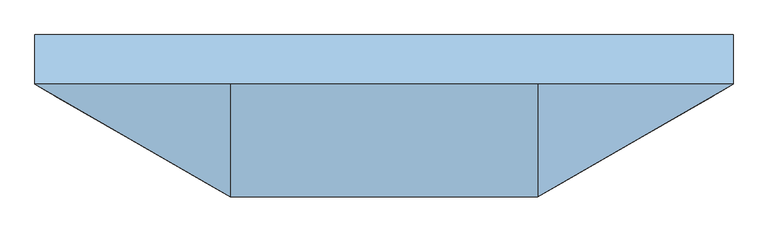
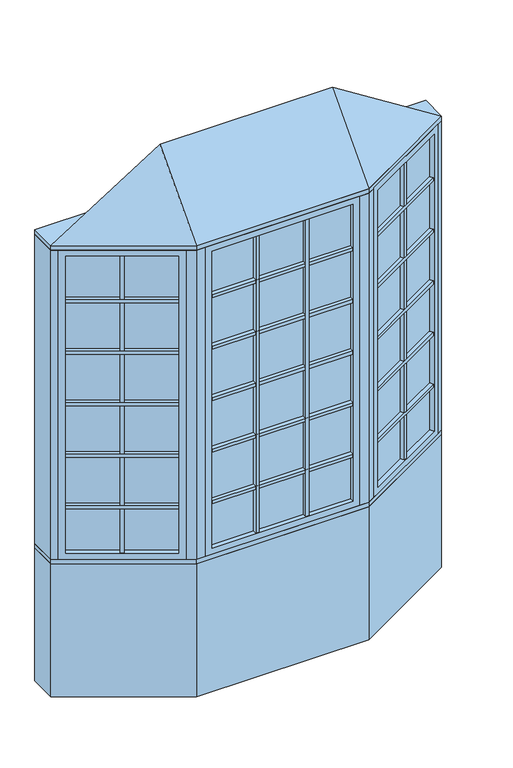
"""IFC4 building model written with IfcOpenShell, lengths in millimetres: window geometry, Pollard_Windows_Tudor Casement Bows and Bays : AML-BAY 30 AFR0618-10-600_GC."""

from ifc_helpers import new_model, si_unit, frame, origin, origin_with_axes, place, context, project, spatial, polyline, outline, extrude, faceted_brep, source, transform, mapped, element, save


def window_91017d7e(model_context):
    return source(origin(), model_context, "Body", "SolidModel", [
        extrude(outline(polyline([(546.881999, -376.6297343), (535.881999, -357.5771754), (1002.1135794, -88.3982469), (1013.1135794, -107.4508058), (546.881999, -376.6297343)])), frame((0.0, 0.0, 1690.998), z_axis=(0.0, 0.0, 1.0), x_axis=(1.0, 0.0, 0.0)), (0.0, 0.0, 1.0), 18.0),
        extrude(outline(polyline([(533.341999, -353.1777664), (522.341999, -334.1252075), (988.5735794, -64.946279), (999.5735794, -83.9988379), (533.341999, -353.1777664)])), frame((0.0, 0.0, 1690.998), z_axis=(0.0, 0.0, 1.0), x_axis=(1.0, 0.0, 0.0)), (0.0, 0.0, 1.0), 18.0),
        extrude(outline(polyline([(546.881999, -376.6297343), (535.881999, -357.5771754), (1002.1135794, -88.3982469), (1013.1135794, -107.4508058), (546.881999, -376.6297343)])), frame((0.0, 0.0, 1090.998), z_axis=(0.0, 0.0, 1.0), x_axis=(1.0, 0.0, 0.0)), (0.0, 0.0, 1.0), 18.0),
        extrude(outline(polyline([(533.341999, -353.1777664), (522.341999, -334.1252075), (988.5735794, -64.946279), (999.5735794, -83.9988379), (533.341999, -353.1777664)])), frame((0.0, 0.0, 1090.998), z_axis=(0.0, 0.0, 1.0), x_axis=(1.0, 0.0, 0.0)), (0.0, 0.0, 1.0), 18.0),
        extrude(outline(polyline([(546.881999, -376.6297343), (535.881999, -357.5771754), (1002.1135794, -88.3982469), (1013.1135794, -107.4508058), (546.881999, -376.6297343)])), frame((0.0, 0.0, 1390.998), z_axis=(0.0, 0.0, 1.0), x_axis=(1.0, 0.0, 0.0)), (0.0, 0.0, 1.0), 18.0),
        extrude(outline(polyline([(533.341999, -353.1777664), (522.341999, -334.1252075), (988.5735794, -64.946279), (999.5735794, -83.9988379), (533.341999, -353.1777664)])), frame((0.0, 0.0, 1390.998), z_axis=(0.0, 0.0, 1.0), x_axis=(1.0, 0.0, 0.0)), (0.0, 0.0, 1.0), 18.0),
        extrude(outline(polyline([(546.881999, -376.6297343), (535.881999, -357.5771754), (1002.1135794, -88.3982469), (1013.1135794, -107.4508058), (546.881999, -376.6297343)])), frame((0.0, 0.0, 1990.998), z_axis=(0.0, 0.0, 1.0), x_axis=(1.0, 0.0, 0.0)), (0.0, 0.0, 1.0), 18.0),
        extrude(outline(polyline([(533.341999, -353.1777664), (522.341999, -334.1252075), (988.5735794, -64.946279), (999.5735794, -83.9988379), (533.341999, -353.1777664)])), frame((0.0, 0.0, 1990.998), z_axis=(0.0, 0.0, 1.0), x_axis=(1.0, 0.0, 0.0)), (0.0, 0.0, 1.0), 18.0),
        extrude(outline(polyline([(546.881999, -376.6297343), (535.881999, -357.5771754), (1002.1135794, -88.3982469), (1013.1135794, -107.4508058), (546.881999, -376.6297343)])), frame((0.0, 0.0, 2290.998), z_axis=(0.0, 0.0, 1.0), x_axis=(1.0, 0.0, 0.0)), (0.0, 0.0, 1.0), 18.0),
        extrude(outline(polyline([(533.341999, -353.1777664), (522.341999, -334.1252075), (988.5735794, -64.946279), (999.5735794, -83.9988379), (533.341999, -353.1777664)])), frame((0.0, 0.0, 2290.998), z_axis=(0.0, 0.0, 1.0), x_axis=(1.0, 0.0, 0.0)), (0.0, 0.0, 1.0), 18.0),
        extrude(outline(polyline([(776.7920178, -218.4877112), (787.7920178, -237.5402701), (772.2035606, -246.5402701), (761.2035606, -227.4877112), (776.7920178, -218.4877112)])), frame((0.0, 0.0, 835.8628), z_axis=(0.0, 0.0, 1.0), x_axis=(1.0, 0.0, 0.0)), (0.0, 0.0, 1.0), 1728.2704),
        extrude(outline(polyline([(774.2520178, -214.0883021), (758.6635606, -223.0883021), (747.6635606, -204.0357432), (763.2520178, -195.0357432), (774.2520178, -214.0883021)])), frame((0.0, 0.0, 835.8628), z_axis=(0.0, 0.0, 1.0), x_axis=(1.0, 0.0, 0.0)), (0.0, 0.0, 1.0), 1728.2704),
        extrude(outline(polyline([(1013.112102, -82.0482469), (524.8834764, -363.9271754), (522.3434764, -359.5277664), (1010.572102, -77.6488379), (1013.112102, -82.0482469)])), frame((0.0, 0.0, 823.1628), z_axis=(0.0, 0.0, 1.0), x_axis=(1.0, 0.0, 0.0)), (0.0, 0.0, 1.0), 1753.6704),
        faceted_brep([(1002.1135794, -88.3982469, 835.8628), (1014.8135794, -110.3952922, 835.8628), (1014.8135794, -110.3952922, 2564.1332), (1002.1135794, -88.3982469, 2564.1332), (1010.572102, -77.6488379, 823.1628), (1013.112102, -82.0482469, 823.1628), (1013.112102, -82.0482469, 2576.8332), (1010.572102, -77.6488379, 2576.8332), (986.8735794, -62.0017926, 835.8628), (999.5735794, -83.9988379, 835.8628), (999.5735794, -83.9988379, 2564.1332), (986.8735794, -62.0017926, 2564.1332), (1045.8734073, -92.4628922, 799.998), (1017.9334073, -44.0693926, 799.998), (1017.9334073, -44.0693926, 2599.998), (1045.8734073, -92.4628922, 2599.998), (548.581999, -379.5742207, 2564.1332), (535.881999, -357.5771754, 2564.1332), (524.8834764, -363.9271754, 2576.8332), (522.3434764, -359.5277664, 2576.8332), (533.341999, -353.1777664, 2564.1332), (520.641999, -331.1807211, 2564.1332), (489.5821711, -349.1131211, 2599.998), (517.5221711, -397.5066207, 2599.998), (548.581999, -379.5742207, 835.8628), (535.881999, -357.5771754, 835.8628), (524.8834764, -363.9271754, 823.1628), (522.3434764, -359.5277664, 823.1628), (533.341999, -353.1777664, 835.8628), (520.641999, -331.1807211, 835.8628), (489.5821711, -349.1131211, 799.998), (517.5221711, -397.5066207, 799.998)], [[[0, 1, 2, 3]], [[4, 5, 6, 7]], [[8, 9, 10, 11]], [[12, 13, 14, 15]], [[3, 2, 16, 17]], [[7, 6, 18, 19]], [[11, 10, 20, 21]], [[15, 14, 22, 23]], [[17, 16, 24, 25]], [[19, 18, 26, 27]], [[21, 20, 28, 29]], [[23, 22, 30, 31]], [[25, 24, 1, 0]], [[5, 26, 18, 6], [3, 17, 25, 0]], [[27, 26, 5, 4]], [[7, 19, 27, 4], [9, 28, 20, 10]], [[29, 28, 9, 8]], [[13, 30, 22, 14], [11, 21, 29, 8]], [[31, 30, 13, 12]], [[15, 23, 31, 12], [1, 24, 16, 2]]]),
        extrude(outline(polyline([(145.6855003, -397.1066207), (145.6855003, -419.1066207), (127.6855003, -419.1066207), (127.6855003, -397.1066207), (145.6855003, -397.1066207)])), frame((0.0, 0.0, 835.8628), z_axis=(0.0, 0.0, 1.0), x_axis=(1.0, 0.0, 0.0)), (0.0, 0.0, 1.0), 1728.2704),
        extrude(outline(polyline([(145.6855003, -392.0266207), (127.6855003, -392.0266207), (127.6855003, -370.0266207), (145.6855003, -370.0266207), (145.6855003, -392.0266207)])), frame((0.0, 0.0, 835.8628), z_axis=(0.0, 0.0, 1.0), x_axis=(1.0, 0.0, 0.0)), (0.0, 0.0, 1.0), 1728.2704),
        extrude(outline(polyline([(-127.6855003, -397.1066207), (-127.6855003, -419.1066207), (-145.6855003, -419.1066207), (-145.6855003, -397.1066207), (-127.6855003, -397.1066207)])), frame((0.0, 0.0, 835.8628), z_axis=(0.0, 0.0, 1.0), x_axis=(1.0, 0.0, 0.0)), (0.0, 0.0, 1.0), 1728.2704),
        extrude(outline(polyline([(-127.6855003, -392.0266207), (-145.6855003, -392.0266207), (-145.6855003, -370.0266207), (-127.6855003, -370.0266207), (-127.6855003, -392.0266207)])), frame((0.0, 0.0, 835.8628), z_axis=(0.0, 0.0, 1.0), x_axis=(1.0, 0.0, 0.0)), (0.0, 0.0, 1.0), 1728.2704),
        extrude(outline(polyline([(-388.3561009, -419.1066207), (-388.3561009, -397.1066207), (388.3561009, -397.1066207), (388.3561009, -419.1066207), (-388.3561009, -419.1066207)])), frame((0.0, 0.0, 1090.998), z_axis=(0.0, 0.0, 1.0), x_axis=(1.0, 0.0, 0.0)), (0.0, 0.0, 1.0), 18.0),
        extrude(outline(polyline([(-388.3561009, -392.0266207), (-388.3561009, -370.0266207), (388.3561009, -370.0266207), (388.3561009, -392.0266207), (-388.3561009, -392.0266207)])), frame((0.0, 0.0, 1090.998), z_axis=(0.0, 0.0, 1.0), x_axis=(1.0, 0.0, 0.0)), (0.0, 0.0, 1.0), 18.0),
        extrude(outline(polyline([(-388.3561009, -419.1066207), (-388.3561009, -397.1066207), (388.3561009, -397.1066207), (388.3561009, -419.1066207), (-388.3561009, -419.1066207)])), frame((0.0, 0.0, 1390.998), z_axis=(0.0, 0.0, 1.0), x_axis=(1.0, 0.0, 0.0)), (0.0, 0.0, 1.0), 18.0),
        extrude(outline(polyline([(-388.3561009, -392.0266207), (-388.3561009, -370.0266207), (388.3561009, -370.0266207), (388.3561009, -392.0266207), (-388.3561009, -392.0266207)])), frame((0.0, 0.0, 1390.998), z_axis=(0.0, 0.0, 1.0), x_axis=(1.0, 0.0, 0.0)), (0.0, 0.0, 1.0), 18.0),
        extrude(outline(polyline([(-388.3561009, -419.1066207), (-388.3561009, -397.1066207), (388.3561009, -397.1066207), (388.3561009, -419.1066207), (-388.3561009, -419.1066207)])), frame((0.0, 0.0, 1690.998), z_axis=(0.0, 0.0, 1.0), x_axis=(1.0, 0.0, 0.0)), (0.0, 0.0, 1.0), 18.0),
        extrude(outline(polyline([(-388.3561009, -392.0266207), (-388.3561009, -370.0266207), (388.3561009, -370.0266207), (388.3561009, -392.0266207), (-388.3561009, -392.0266207)])), frame((0.0, 0.0, 1690.998), z_axis=(0.0, 0.0, 1.0), x_axis=(1.0, 0.0, 0.0)), (0.0, 0.0, 1.0), 18.0),
        extrude(outline(polyline([(-388.3561009, -419.1066207), (-388.3561009, -397.1066207), (388.3561009, -397.1066207), (388.3561009, -419.1066207), (-388.3561009, -419.1066207)])), frame((0.0, 0.0, 1990.998), z_axis=(0.0, 0.0, 1.0), x_axis=(1.0, 0.0, 0.0)), (0.0, 0.0, 1.0), 18.0),
        extrude(outline(polyline([(-388.3561009, -392.0266207), (-388.3561009, -370.0266207), (388.3561009, -370.0266207), (388.3561009, -392.0266207), (-388.3561009, -392.0266207)])), frame((0.0, 0.0, 1990.998), z_axis=(0.0, 0.0, 1.0), x_axis=(1.0, 0.0, 0.0)), (0.0, 0.0, 1.0), 18.0),
        extrude(outline(polyline([(-1013.1135794, -107.4508058), (-1002.1135794, -88.3982469), (-535.881999, -357.5771754), (-546.881999, -376.6297343), (-1013.1135794, -107.4508058)])), frame((0.0, 0.0, 1090.998), z_axis=(0.0, 0.0, 1.0), x_axis=(1.0, 0.0, 0.0)), (0.0, 0.0, 1.0), 18.0),
        extrude(outline(polyline([(-999.5735794, -83.9988379), (-988.5735794, -64.946279), (-522.341999, -334.1252075), (-533.341999, -353.1777664), (-999.5735794, -83.9988379)])), frame((0.0, 0.0, 1090.998), z_axis=(0.0, 0.0, 1.0), x_axis=(1.0, 0.0, 0.0)), (0.0, 0.0, 1.0), 18.0),
        extrude(outline(polyline([(-1013.1135794, -107.4508058), (-1002.1135794, -88.3982469), (-535.881999, -357.5771754), (-546.881999, -376.6297343), (-1013.1135794, -107.4508058)])), frame((0.0, 0.0, 1390.998), z_axis=(0.0, 0.0, 1.0), x_axis=(1.0, 0.0, 0.0)), (0.0, 0.0, 1.0), 18.0),
        extrude(outline(polyline([(-999.5735794, -83.9988379), (-988.5735794, -64.946279), (-522.341999, -334.1252075), (-533.341999, -353.1777664), (-999.5735794, -83.9988379)])), frame((0.0, 0.0, 1390.998), z_axis=(0.0, 0.0, 1.0), x_axis=(1.0, 0.0, 0.0)), (0.0, 0.0, 1.0), 18.0),
        extrude(outline(polyline([(-1013.1135794, -107.4508058), (-1002.1135794, -88.3982469), (-535.881999, -357.5771754), (-546.881999, -376.6297343), (-1013.1135794, -107.4508058)])), frame((0.0, 0.0, 1690.998), z_axis=(0.0, 0.0, 1.0), x_axis=(1.0, 0.0, 0.0)), (0.0, 0.0, 1.0), 18.0),
        extrude(outline(polyline([(-999.5735794, -83.9988379), (-988.5735794, -64.946279), (-522.341999, -334.1252075), (-533.341999, -353.1777664), (-999.5735794, -83.9988379)])), frame((0.0, 0.0, 1690.998), z_axis=(0.0, 0.0, 1.0), x_axis=(1.0, 0.0, 0.0)), (0.0, 0.0, 1.0), 18.0),
        extrude(outline(polyline([(-1013.1135794, -107.4508058), (-1002.1135794, -88.3982469), (-535.881999, -357.5771754), (-546.881999, -376.6297343), (-1013.1135794, -107.4508058)])), frame((0.0, 0.0, 1990.998), z_axis=(0.0, 0.0, 1.0), x_axis=(1.0, 0.0, 0.0)), (0.0, 0.0, 1.0), 18.0),
        extrude(outline(polyline([(-999.5735794, -83.9988379), (-988.5735794, -64.946279), (-522.341999, -334.1252075), (-533.341999, -353.1777664), (-999.5735794, -83.9988379)])), frame((0.0, 0.0, 1990.998), z_axis=(0.0, 0.0, 1.0), x_axis=(1.0, 0.0, 0.0)), (0.0, 0.0, 1.0), 18.0),
        extrude(outline(polyline([(-1013.1135794, -107.4508058), (-1002.1135794, -88.3982469), (-535.881999, -357.5771754), (-546.881999, -376.6297343), (-1013.1135794, -107.4508058)])), frame((0.0, 0.0, 2290.998), z_axis=(0.0, 0.0, 1.0), x_axis=(1.0, 0.0, 0.0)), (0.0, 0.0, 1.0), 18.0),
        extrude(outline(polyline([(-999.5735794, -83.9988379), (-988.5735794, -64.946279), (-522.341999, -334.1252075), (-533.341999, -353.1777664), (-999.5735794, -83.9988379)])), frame((0.0, 0.0, 2290.998), z_axis=(0.0, 0.0, 1.0), x_axis=(1.0, 0.0, 0.0)), (0.0, 0.0, 1.0), 18.0),
        extrude(outline(polyline([(-388.3561009, -419.1066207), (-388.3561009, -397.1066207), (388.3561009, -397.1066207), (388.3561009, -419.1066207), (-388.3561009, -419.1066207)])), frame((0.0, 0.0, 2290.998), z_axis=(0.0, 0.0, 1.0), x_axis=(1.0, 0.0, 0.0)), (0.0, 0.0, 1.0), 18.0),
        extrude(outline(polyline([(-388.3561009, -392.0266207), (-388.3561009, -370.0266207), (388.3561009, -370.0266207), (388.3561009, -392.0266207), (-388.3561009, -392.0266207)])), frame((0.0, 0.0, 2290.998), z_axis=(0.0, 0.0, 1.0), x_axis=(1.0, 0.0, 0.0)), (0.0, 0.0, 1.0), 18.0),
        extrude(outline(polyline([(-761.2035606, -227.4877112), (-772.2035606, -246.5402701), (-787.7920178, -237.5402701), (-776.7920178, -218.4877112), (-761.2035606, -227.4877112)])), frame((0.0, 0.0, 835.8628), z_axis=(0.0, 0.0, 1.0), x_axis=(1.0, 0.0, 0.0)), (0.0, 0.0, 1.0), 1728.2704),
        extrude(outline(polyline([(-758.6635606, -223.0883021), (-774.2520178, -214.0883021), (-763.2520178, -195.0357432), (-747.6635606, -204.0357432), (-758.6635606, -223.0883021)])), frame((0.0, 0.0, 835.8628), z_axis=(0.0, 0.0, 1.0), x_axis=(1.0, 0.0, 0.0)), (0.0, 0.0, 1.0), 1728.2704),
        extrude(outline(polyline([(-524.8834764, -363.9271754), (-1013.112102, -82.0482469), (-1010.572102, -77.6488379), (-522.3434764, -359.5277664), (-524.8834764, -363.9271754)])), frame((0.0, 0.0, 823.1628), z_axis=(0.0, 0.0, 1.0), x_axis=(1.0, 0.0, 0.0)), (0.0, 0.0, 1.0), 1753.6704),
        faceted_brep([(-533.341999, -353.1777664, 2564.1332), (-520.641999, -331.1807211, 2564.1332), (-520.641999, -331.1807211, 835.8628), (-533.341999, -353.1777664, 835.8628), (-524.8834764, -363.9271754, 2576.8332), (-522.3434764, -359.5277664, 2576.8332), (-522.3434764, -359.5277664, 823.1628), (-524.8834764, -363.9271754, 823.1628), (-548.581999, -379.5742207, 2564.1332), (-535.881999, -357.5771754, 2564.1332), (-535.881999, -357.5771754, 835.8628), (-548.581999, -379.5742207, 835.8628), (-489.5821711, -349.1131211, 2599.998), (-517.5221711, -397.5066207, 2599.998), (-517.5221711, -397.5066207, 799.998), (-489.5821711, -349.1131211, 799.998), (-986.8735794, -62.0017926, 835.8628), (-999.5735794, -83.9988379, 835.8628), (-1010.572102, -77.6488379, 823.1628), (-1013.112102, -82.0482469, 823.1628), (-1002.1135794, -88.3982469, 835.8628), (-1014.8135794, -110.3952922, 835.8628), (-1045.8734073, -92.4628922, 799.998), (-1017.9334073, -44.0693926, 799.998), (-986.8735794, -62.0017926, 2564.1332), (-999.5735794, -83.9988379, 2564.1332), (-1010.572102, -77.6488379, 2576.8332), (-1013.112102, -82.0482469, 2576.8332), (-1002.1135794, -88.3982469, 2564.1332), (-1014.8135794, -110.3952922, 2564.1332), (-1045.8734073, -92.4628922, 2599.998), (-1017.9334073, -44.0693926, 2599.998)], [[[0, 1, 2, 3]], [[4, 5, 6, 7]], [[8, 9, 10, 11]], [[12, 13, 14, 15]], [[3, 2, 16, 17]], [[7, 6, 18, 19]], [[11, 10, 20, 21]], [[15, 14, 22, 23]], [[17, 16, 24, 25]], [[19, 18, 26, 27]], [[21, 20, 28, 29]], [[23, 22, 30, 31]], [[15, 23, 31, 12], [1, 24, 16, 2]], [[25, 24, 1, 0]], [[5, 26, 18, 6], [3, 17, 25, 0]], [[27, 26, 5, 4]], [[7, 19, 27, 4], [9, 28, 20, 10]], [[29, 28, 9, 8]], [[13, 30, 22, 14], [11, 21, 29, 8]], [[31, 30, 13, 12]]]),
        extrude(outline(polyline([(401.0561009, -397.1066207), (-401.0561009, -397.1066207), (-401.0561009, -392.0266207), (401.0561009, -392.0266207), (401.0561009, -397.1066207)])), frame((0.0, 0.0, 823.1628), z_axis=(0.0, 0.0, 1.0), x_axis=(1.0, 0.0, 0.0)), (0.0, 0.0, 1.0), 1753.6704),
        faceted_brep([(388.3561009, -397.1066207, 835.8628), (388.3561009, -422.5066207, 835.8628), (388.3561009, -422.5066207, 2564.1332), (388.3561009, -397.1066207, 2564.1332), (401.0561009, -392.0266207, 823.1628), (401.0561009, -397.1066207, 823.1628), (401.0561009, -397.1066207, 2576.8332), (401.0561009, -392.0266207, 2576.8332), (388.3561009, -366.6266207, 835.8628), (388.3561009, -392.0266207, 835.8628), (388.3561009, -392.0266207, 2564.1332), (388.3561009, -366.6266207, 2564.1332), (424.2209009, -422.5066207, 799.998), (424.2209009, -366.6266207, 799.998), (424.2209009, -366.6266207, 2599.998), (424.2209009, -422.5066207, 2599.998), (-388.3561009, -422.5066207, 2564.1332), (-388.3561009, -397.1066207, 2564.1332), (-401.0561009, -397.1066207, 2576.8332), (-401.0561009, -392.0266207, 2576.8332), (-388.3561009, -392.0266207, 2564.1332), (-388.3561009, -366.6266207, 2564.1332), (-424.2209009, -366.6266207, 2599.998), (-424.2209009, -422.5066207, 2599.998), (-388.3561009, -422.5066207, 835.8628), (-388.3561009, -397.1066207, 835.8628), (-401.0561009, -397.1066207, 823.1628), (-401.0561009, -392.0266207, 823.1628), (-388.3561009, -392.0266207, 835.8628), (-388.3561009, -366.6266207, 835.8628), (-424.2209009, -366.6266207, 799.998), (-424.2209009, -422.5066207, 799.998)], [[[0, 1, 2, 3]], [[4, 5, 6, 7]], [[8, 9, 10, 11]], [[12, 13, 14, 15]], [[3, 2, 16, 17]], [[7, 6, 18, 19]], [[11, 10, 20, 21]], [[15, 14, 22, 23]], [[17, 16, 24, 25]], [[19, 18, 26, 27]], [[21, 20, 28, 29]], [[23, 22, 30, 31]], [[15, 23, 31, 12], [1, 24, 16, 2]], [[25, 24, 1, 0]], [[5, 26, 18, 6], [3, 17, 25, 0]], [[27, 26, 5, 4]], [[7, 19, 27, 4], [9, 28, 20, 10]], [[29, 28, 9, 8]], [[13, 30, 22, 14], [11, 21, 29, 8]], [[31, 30, 13, 12]]]),
        faceted_brep([(1076.5, -74.7806207, 2625.398), (474.2209009, -422.5066207, 2625.398), (-474.2209009, -422.5066207, 2625.398), (-1076.5, -74.7806207, 2625.398), (-474.2209009, -74.7806207, 3006.398), (474.2209009, -74.7806207, 3006.398)], [[[0, 1, 2, 3]], [[3, 2, 4]], [[2, 1, 5, 4]], [[1, 0, 5]], [[0, 3, 4, 5]]]),
        extrude(outline(polyline([(-1076.5, 77.6193793), (1076.5, 77.6193793), (1076.5, -74.7806207), (474.2209009, -422.5066207), (-474.2209009, -422.5066207), (-1076.5, -74.7806207), (-1076.5, 77.6193793)])), frame((0.0, 0.0, 2599.998), z_axis=(0.0, 0.0, 1.0), x_axis=(1.0, 0.0, 0.0)), (0.0, 0.0, 1.0), 25.4),
        extrude(outline(polyline([(-1076.5, -74.7806207), (-1076.5, 77.6193793), (-1035.6645431, 77.6193793), (-1035.6645431, -74.7806207), (-1045.8734073, -92.4628922), (-1076.5, -74.7806207)])), frame((0.0, 0.0, 799.998), z_axis=(0.0, 0.0, 1.0), x_axis=(1.0, 0.0, 0.0)), (0.0, 0.0, 1.0), 1800.0),
        extrude(outline(polyline([(1076.5, 77.6193793), (1076.5, -74.7806207), (1045.8734073, -92.4628922), (1035.6645431, -74.7806207), (1035.6645431, 77.6193793), (1076.5, 77.6193793)])), frame((0.0, 0.0, 799.998), z_axis=(0.0, 0.0, 1.0), x_axis=(1.0, 0.0, 0.0)), (0.0, 0.0, 1.0), 1800.0),
        extrude(outline(polyline([(474.2209009, -422.5066207), (424.2209009, -422.5066207), (424.2209009, -372.5066207), (460.8234413, -372.5066207), (492.5221711, -354.2053505), (517.5221711, -397.5066207), (474.2209009, -422.5066207)])), frame((0.0, 0.0, 799.998), z_axis=(0.0, 0.0, 1.0), x_axis=(1.0, 0.0, 0.0)), (0.0, 0.0, 1.0), 1800.0),
        extrude(outline(polyline([(-474.2209009, -422.5066207), (-517.5221711, -397.5066207), (-492.5221711, -354.2053505), (-460.8234413, -372.5066207), (-424.2209009, -372.5066207), (-424.2209009, -422.5066207), (-474.2209009, -422.5066207)])), frame((0.0, 0.0, 799.998), z_axis=(0.0, 0.0, 1.0), x_axis=(1.0, 0.0, 0.0)), (0.0, 0.0, 1.0), 1800.0),
        extrude(outline(polyline([(-474.2209009, -422.5066207), (-1076.5, -74.7806207), (-1076.5, 77.6193793), (-1035.6645431, 77.6193793), (-433.385444, -270.1066207), (433.385444, -270.1066207), (1035.6645431, 77.6193793), (1076.5, 77.6193793), (1076.5, -74.7806207), (474.2209009, -422.5066207), (-474.2209009, -422.5066207)])), frame((0.0, 0.0, 774.598), z_axis=(0.0, 0.0, 1.0), x_axis=(1.0, 0.0, 0.0)), (0.0, 0.0, 1.0), 25.4),
        extrude(outline(polyline([(-1076.5, -74.7806207), (-1076.5, 77.6193793), (-1035.6645431, 77.6193793), (-433.385444, -270.1066207), (433.385444, -270.1066207), (1035.6645431, 77.6193793), (1076.5, 77.6193793), (1076.5, -74.7806207), (474.2209009, -422.5066207), (-474.2209009, -422.5066207), (-1076.5, -74.7806207)])), origin_with_axes(), (0.0, 0.0, 1.0), 774.598),
    ])


if __name__ == "__main__":
    model = new_model("IFC4")
    model_context = context("Model", 3, world=origin())
    ifc_project = project(units=[si_unit("LENGTHUNIT", "METRE", prefix="MILLI")], contexts=[model_context])
    site = spatial("IfcSite", under=ifc_project)
    building = spatial("IfcBuilding", under=site)
    placement = place(None, origin())
    window_shape = window_91017d7e(model_context)
    element("IfcWindow", 1, ObjectType="Pollard_Windows_Tudor Casement Bows and Bays : AML-BAY 30 AFR0618-10-600_GC", at=placement, inside=building, context=model_context, shape_type="MappedRepresentation", body=[
        mapped(window_shape, transform((0.0, 0.0, 0.0), x_axis=(1.0, 0.0, 0.0), y_axis=(0.0, 1.0, 0.0), z_axis=(0.0, 0.0, 1.0))),
    ])
    save(model, "model.ifc")
